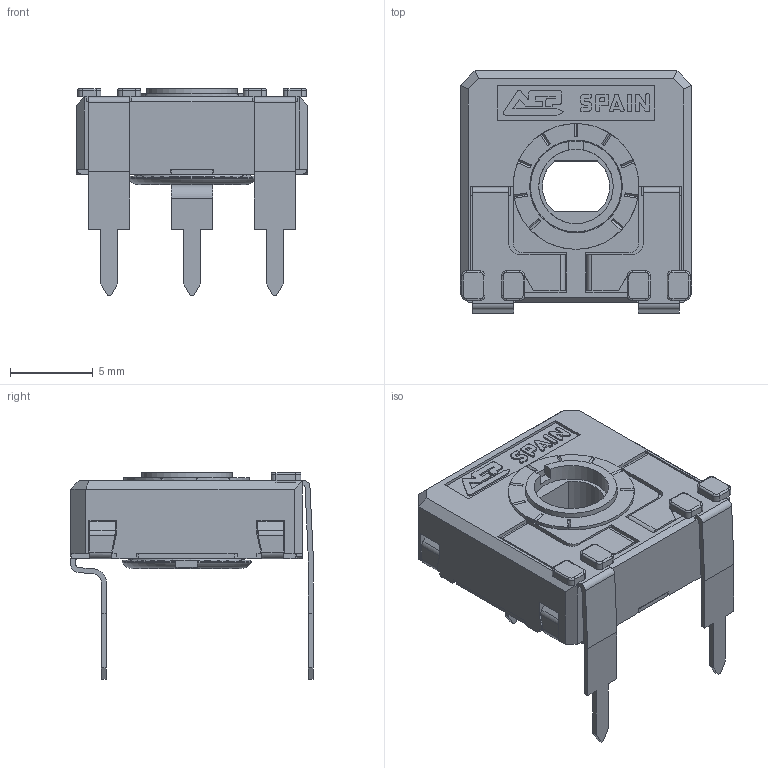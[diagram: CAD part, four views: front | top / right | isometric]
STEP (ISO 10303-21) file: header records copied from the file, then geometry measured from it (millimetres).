
FILE_DESCRIPTION(/* description */ (''),/* implementation_level */ '2;1');
FILE_NAME(/* name */ '\\SERVERACP\intercambio\Ignacio Santa Cecilia\Nueva WEB 2025\CA14 - CE14\CA14NVA12,5.stp',/* time_stamp */ '2025-06-06T10:15:06+02:00',/* author */ ('CEM'),/* organization */ (''),/* preprocessor_version */ 'ST-DEVELOPER v17',/* originating_system */ 'Autodesk Inventor 2018',/* authorisation */ '');
FILE_SCHEMA (('AUTOMOTIVE_DESIGN { 1 0 10303 214 3 1 1 }'));
Length unit declared in the file: millimetre
Products named in the file (1): CARCASA CA14 PGA
Bounding box: 14 x 14.65 x 12.5 mm (x, y, z)
Volume: 539.9 mm3; surface area: 1519.1 mm2
Topology: 1 solids, 1 shells, 682 faces, 1932 edges, 1246 vertices
Faces by surface type: plane 502, cylinder 143, torus 23, bspline 8, cone 6
Full cylindrical faces by diameter (mm): 4.5 x1, 5.5 x1, 5.6 x1, 5.752 x1, 6.8 x1, 7.6 x1
Entity records: 22336 total; most frequent: CARTESIAN_POINT 4158, ORIENTED_EDGE 3864, DIRECTION 3609, EDGE_CURVE 1932, LINE 1515, VECTOR 1515, VERTEX_POINT 1246, AXIS2_PLACEMENT_3D 1047
